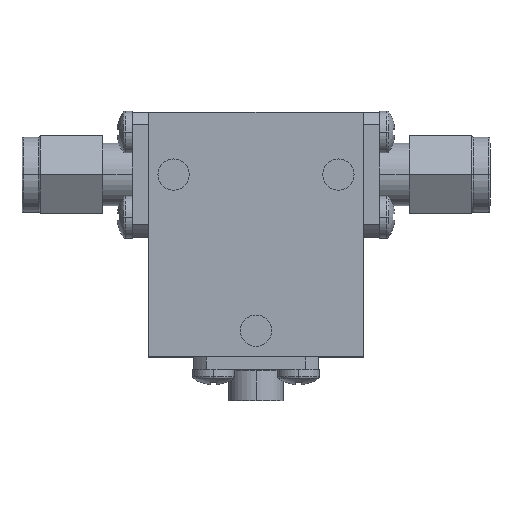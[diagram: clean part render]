
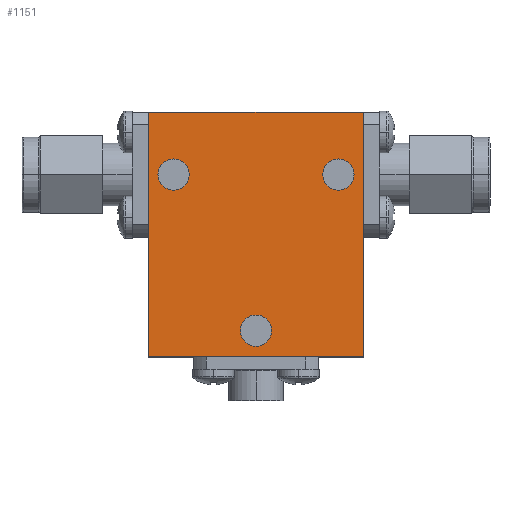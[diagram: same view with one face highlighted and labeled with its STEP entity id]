
A CAD part, top view. The second image highlights one B-rep face of the part: STEP entity #1151.
In plain terms, the highlighted planar face has unit normal (0, 0, 1) as drawn and (0, 0, -1) by its records, which use the part's own axes.
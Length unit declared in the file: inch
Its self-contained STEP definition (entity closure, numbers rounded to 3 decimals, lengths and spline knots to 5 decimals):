
#11 = EDGE_CURVE ( 'NONE', #2478, #4122, #4216, .T. ) ;
#101 = VERTEX_POINT ( 'NONE', #1249 ) ;
#129 = ORIENTED_EDGE ( 'NONE', *, *, #11, .T. ) ;
#144 = LINE ( 'NONE', #2534, #976 ) ;
#183 = EDGE_LOOP ( 'NONE', ( #3389, #2221 ) ) ;
#266 = VERTEX_POINT ( 'NONE', #3679 ) ;
#277 = VERTEX_POINT ( 'NONE', #300 ) ;
#300 = CARTESIAN_POINT ( 'NONE',  ( 0.3925, 0.24, -0.25 ) ) ;
#307 = FACE_BOUND ( 'NONE', #2636, .T. ) ;
#373 = VERTEX_POINT ( 'NONE', #2995 ) ;
#412 = CARTESIAN_POINT ( 'NONE',  ( -0.43, -0.49, -0.25 ) ) ;
#485 = AXIS2_PLACEMENT_3D ( 'NONE', #2559, #542, #2891 ) ;
#488 = DIRECTION ( 'NONE',  ( -1., 0., 0. ) ) ;
#542 = DIRECTION ( 'NONE',  ( 0., 0., 1. ) ) ;
#596 = DIRECTION ( 'NONE',  ( 0., 0., 1. ) ) ;
#674 = CARTESIAN_POINT ( 'NONE',  ( 0.43, -0.49, -0.25 ) ) ;
#728 = CIRCLE ( 'NONE', #3800, 0.0625 ) ;
#798 = EDGE_CURVE ( 'NONE', #373, #277, #1621, .T. ) ;
#836 = EDGE_LOOP ( 'NONE', ( #129, #1958 ) ) ;
#886 = VECTOR ( 'NONE', #488, 39.37008 ) ;
#964 = DIRECTION ( 'NONE',  ( 0., 0., 1. ) ) ;
#976 = VECTOR ( 'NONE', #1535, 39.37008 ) ;
#1083 = DIRECTION ( 'NONE',  ( 0., 0., 1. ) ) ;
#1151 = ADVANCED_FACE ( 'NONE', ( #2042, #3239, #307, #3839 ), #3126, .F. ) ;
#1230 = CARTESIAN_POINT ( 'NONE',  ( -0.43, 0.49, -0.25 ) ) ;
#1249 = CARTESIAN_POINT ( 'NONE',  ( -0.3925, 0.24, -0.25 ) ) ;
#1256 = ORIENTED_EDGE ( 'NONE', *, *, #4024, .T. ) ;
#1267 = EDGE_LOOP ( 'NONE', ( #3768, #1989, #2627, #3197 ) ) ;
#1346 = DIRECTION ( 'NONE',  ( 0., 0., 1. ) ) ;
#1384 = CARTESIAN_POINT ( 'NONE',  ( 0.0625, -0.385, -0.25 ) ) ;
#1535 = DIRECTION ( 'NONE',  ( 0., 1., 0. ) ) ;
#1621 = CIRCLE ( 'NONE', #1942, 0.0625 ) ;
#1642 = DIRECTION ( 'NONE',  ( 1., 0., 0. ) ) ;
#1649 = CIRCLE ( 'NONE', #3711, 0.0625 ) ;
#1659 = DIRECTION ( 'NONE',  ( 1., 0., 0. ) ) ;
#1731 = EDGE_CURVE ( 'NONE', #266, #3006, #3078, .T. ) ;
#1737 = AXIS2_PLACEMENT_3D ( 'NONE', #4166, #1083, #3399 ) ;
#1768 = EDGE_CURVE ( 'NONE', #2061, #1818, #2228, .T. ) ;
#1818 = VERTEX_POINT ( 'NONE', #3166 ) ;
#1942 = AXIS2_PLACEMENT_3D ( 'NONE', #2963, #964, #3293 ) ;
#1958 = ORIENTED_EDGE ( 'NONE', *, *, #2417, .T. ) ;
#1989 = ORIENTED_EDGE ( 'NONE', *, *, #1731, .F. ) ;
#2029 = DIRECTION ( 'NONE',  ( 0., 0., 1. ) ) ;
#2042 = FACE_BOUND ( 'NONE', #183, .T. ) ;
#2061 = VERTEX_POINT ( 'NONE', #2087 ) ;
#2087 = CARTESIAN_POINT ( 'NONE',  ( 0.43, 0.49, -0.25 ) ) ;
#2133 = CIRCLE ( 'NONE', #3318, 0.0625 ) ;
#2148 = CARTESIAN_POINT ( 'NONE',  ( -0.43, 0.49, -0.25 ) ) ;
#2221 = ORIENTED_EDGE ( 'NONE', *, *, #798, .T. ) ;
#2228 = LINE ( 'NONE', #2148, #886 ) ;
#2249 = AXIS2_PLACEMENT_3D ( 'NONE', #4121, #4221, #3084 ) ;
#2417 = EDGE_CURVE ( 'NONE', #4122, #2478, #2133, .T. ) ;
#2478 = VERTEX_POINT ( 'NONE', #1384 ) ;
#2520 = DIRECTION ( 'NONE',  ( 0., -1., 0. ) ) ;
#2534 = CARTESIAN_POINT ( 'NONE',  ( 0.43, 0.49, -0.25 ) ) ;
#2559 = CARTESIAN_POINT ( 'NONE',  ( 0., -0.385, -0.25 ) ) ;
#2627 = ORIENTED_EDGE ( 'NONE', *, *, #3303, .F. ) ;
#2636 = EDGE_LOOP ( 'NONE', ( #4291, #1256 ) ) ;
#2713 = DIRECTION ( 'NONE',  ( 1., 0., 0. ) ) ;
#2722 = CARTESIAN_POINT ( 'NONE',  ( -0.0625, -0.385, -0.25 ) ) ;
#2758 = LINE ( 'NONE', #1230, #3765 ) ;
#2891 = DIRECTION ( 'NONE',  ( 1., 0., 0. ) ) ;
#2963 = CARTESIAN_POINT ( 'NONE',  ( 0.33, 0.24, -0.25 ) ) ;
#2993 = CARTESIAN_POINT ( 'NONE',  ( 0.33, 0.24, -0.25 ) ) ;
#2995 = CARTESIAN_POINT ( 'NONE',  ( 0.2675, 0.24, -0.25 ) ) ;
#3006 = VERTEX_POINT ( 'NONE', #674 ) ;
#3033 = CARTESIAN_POINT ( 'NONE',  ( 0., -0.385, -0.25 ) ) ;
#3077 = CARTESIAN_POINT ( 'NONE',  ( -0.2675, 0.24, -0.25 ) ) ;
#3078 = LINE ( 'NONE', #412, #3660 ) ;
#3084 = DIRECTION ( 'NONE',  ( 1., 0., 0. ) ) ;
#3126 = PLANE ( 'NONE',  #2249 ) ;
#3166 = CARTESIAN_POINT ( 'NONE',  ( -0.43, 0.49, -0.25 ) ) ;
#3197 = ORIENTED_EDGE ( 'NONE', *, *, #1768, .F. ) ;
#3239 = FACE_BOUND ( 'NONE', #836, .T. ) ;
#3293 = DIRECTION ( 'NONE',  ( 1., 0., 0. ) ) ;
#3303 = EDGE_CURVE ( 'NONE', #1818, #266, #2758, .T. ) ;
#3318 = AXIS2_PLACEMENT_3D ( 'NONE', #3033, #2029, #2713 ) ;
#3389 = ORIENTED_EDGE ( 'NONE', *, *, #3659, .T. ) ;
#3399 = DIRECTION ( 'NONE',  ( 1., 0., 0. ) ) ;
#3530 = EDGE_CURVE ( 'NONE', #4114, #101, #1649, .T. ) ;
#3659 = EDGE_CURVE ( 'NONE', #277, #373, #728, .T. ) ;
#3660 = VECTOR ( 'NONE', #4169, 39.37008 ) ;
#3679 = CARTESIAN_POINT ( 'NONE',  ( -0.43, -0.49, -0.25 ) ) ;
#3711 = AXIS2_PLACEMENT_3D ( 'NONE', #3948, #596, #1642 ) ;
#3765 = VECTOR ( 'NONE', #2520, 39.37008 ) ;
#3768 = ORIENTED_EDGE ( 'NONE', *, *, #4309, .F. ) ;
#3800 = AXIS2_PLACEMENT_3D ( 'NONE', #2993, #1346, #1659 ) ;
#3839 = FACE_OUTER_BOUND ( 'NONE', #1267, .T. ) ;
#3867 = CIRCLE ( 'NONE', #1737, 0.0625 ) ;
#3948 = CARTESIAN_POINT ( 'NONE',  ( -0.33, 0.24, -0.25 ) ) ;
#4024 = EDGE_CURVE ( 'NONE', #101, #4114, #3867, .T. ) ;
#4114 = VERTEX_POINT ( 'NONE', #3077 ) ;
#4121 = CARTESIAN_POINT ( 'NONE',  ( 0., 0., -0.25 ) ) ;
#4122 = VERTEX_POINT ( 'NONE', #2722 ) ;
#4166 = CARTESIAN_POINT ( 'NONE',  ( -0.33, 0.24, -0.25 ) ) ;
#4169 = DIRECTION ( 'NONE',  ( 1., 0., 0. ) ) ;
#4216 = CIRCLE ( 'NONE', #485, 0.0625 ) ;
#4221 = DIRECTION ( 'NONE',  ( 0., 0., 1. ) ) ;
#4291 = ORIENTED_EDGE ( 'NONE', *, *, #3530, .T. ) ;
#4309 = EDGE_CURVE ( 'NONE', #3006, #2061, #144, .T. ) ;
